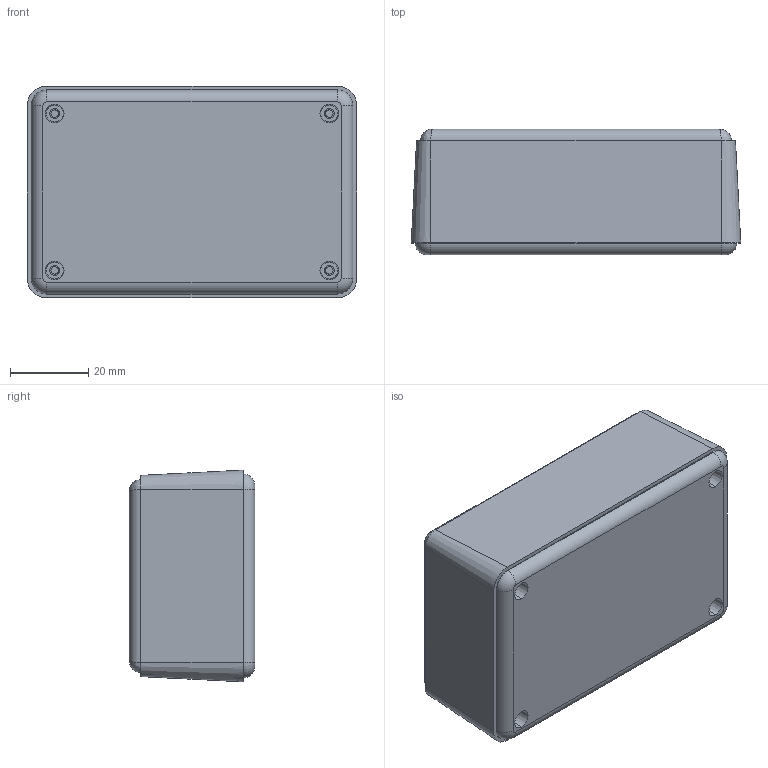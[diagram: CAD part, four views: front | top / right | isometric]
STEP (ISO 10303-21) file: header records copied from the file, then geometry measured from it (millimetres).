
FILE_DESCRIPTION (( 'STEP AP203' ), '1' );
FILE_NAME ('HH-012.STEP', '2017-08-01T10:56:27', ( '' ), ( '' ), 'SwSTEP 2.0', 'SolidWorks 2015', '' );
FILE_SCHEMA (( 'CONFIG_CONTROL_DESIGN' ));
Length unit declared in the file: millimetre
Products named in the file (3): HH-012-P-2; HH-012-P-1; HH-012
Assembly tree (2 placements, depth 2):
  HH-012
    HH-012-P-2
    HH-012-P-1
Bounding box: 84 x 32 x 54 mm (x, y, z)
Volume: 37128.9 mm3; surface area: 35503.3 mm2
Topology: 2 solids, 2 shells, 265 faces, 671 edges, 438 vertices
Faces by surface type: plane 141, cone 60, cylinder 32, bspline 28, torus 4
Entity records: 9670 total; most frequent: CARTESIAN_POINT 3027, ORIENTED_EDGE 1334, DIRECTION 1275, EDGE_CURVE 667, AXIS2_PLACEMENT_3D 438, VERTEX_POINT 438, VECTOR 399, LINE 399
